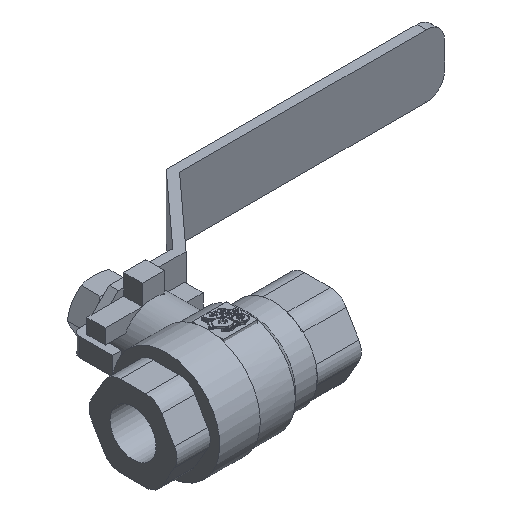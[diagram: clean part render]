
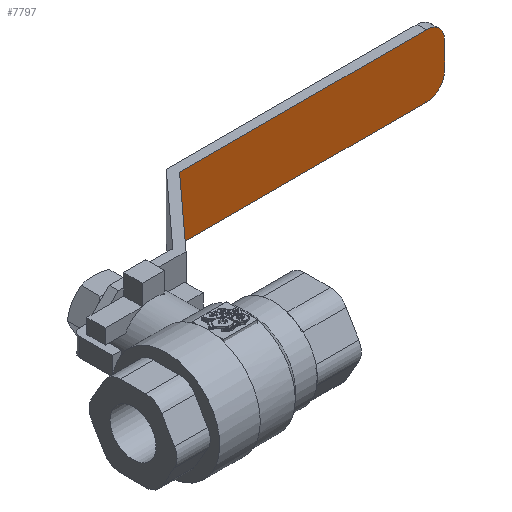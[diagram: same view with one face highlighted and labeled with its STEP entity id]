
A CAD part, isometric view. The second image highlights one B-rep face of the part: STEP entity #7797.
In plain terms, the highlighted planar face has unit normal (0, -1, 0).
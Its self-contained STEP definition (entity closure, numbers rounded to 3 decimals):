
#7797=ADVANCED_FACE('',(#14396),#14398,.T.);
#14396=FACE_BOUND('',#14397,.T.);
#14397=EDGE_LOOP('',(#19887,#19888,#19889,#19890,#19891,#19892));
#14398=PLANE('',#14399);
#14399=AXIS2_PLACEMENT_3D('',#14400,#14401,#14402);
#14400=CARTESIAN_POINT('',(3238.354,1729.318,-8.497));
#14401=DIRECTION('',(0.,-1.,0.));
#14402=DIRECTION('',(1.,0.,0.));
#19887=ORIENTED_EDGE('',*,*,#22725,.F.);
#19888=ORIENTED_EDGE('',*,*,#22729,.T.);
#19889=ORIENTED_EDGE('',*,*,#22734,.F.);
#19890=ORIENTED_EDGE('',*,*,#22744,.F.);
#19891=ORIENTED_EDGE('',*,*,#22745,.F.);
#19892=ORIENTED_EDGE('',*,*,#22746,.T.);
#22725=EDGE_CURVE('',#27057,#27059,#27060,.T.);
#22729=EDGE_CURVE('',#27057,#27064,#27066,.T.);
#22734=EDGE_CURVE('',#27074,#27064,#27075,.T.);
#22744=EDGE_CURVE('',#27085,#27074,#27087,.T.);
#22745=EDGE_CURVE('',#27088,#27085,#27089,.T.);
#22746=EDGE_CURVE('',#27088,#27059,#27090,.T.);
#27057=VERTEX_POINT('',#36487);
#27059=VERTEX_POINT('',#36491);
#27060=CIRCLE('',#36492,5.);
#27064=VERTEX_POINT('',#36503);
#27066=LINE('',#36507,#36508);
#27074=VERTEX_POINT('',#36526);
#27075=CIRCLE('',#36527,5.);
#27085=VERTEX_POINT('',#36556);
#27087=LINE('',#36560,#36561);
#27088=VERTEX_POINT('',#36563);
#27089=LINE('',#36564,#36565);
#27090=LINE('',#36567,#36568);
#36487=CARTESIAN_POINT('',(3310.247,1729.318,-3.497));
#36491=CARTESIAN_POINT('',(3305.247,1729.318,-8.497));
#36492=AXIS2_PLACEMENT_3D('',#36493,#36494,#36495);
#36493=CARTESIAN_POINT('',(3305.247,1729.318,-3.497));
#36494=DIRECTION('',(0.,1.,0.));
#36495=DIRECTION('',(1.,0.,0.));
#36503=CARTESIAN_POINT('',(3310.247,1729.318,3.503));
#36507=CARTESIAN_POINT('',(3310.247,1729.318,-3.497));
#36508=VECTOR('',#36509,1.);
#36509=DIRECTION('',(0.,0.,1.));
#36526=CARTESIAN_POINT('',(3305.247,1729.318,8.503));
#36527=AXIS2_PLACEMENT_3D('',#36528,#36529,#36530);
#36528=CARTESIAN_POINT('',(3305.247,1729.318,3.503));
#36529=DIRECTION('',(0.,1.,0.));
#36530=DIRECTION('',(0.,0.,1.));
#36556=CARTESIAN_POINT('',(3238.354,1729.318,8.503));
#36560=CARTESIAN_POINT('',(3238.354,1729.318,8.503));
#36561=VECTOR('',#36562,1.);
#36562=DIRECTION('',(1.,0.,0.));
#36563=CARTESIAN_POINT('',(3238.354,1729.318,-8.497));
#36564=CARTESIAN_POINT('',(3238.354,1729.318,-8.497));
#36565=VECTOR('',#36566,1.);
#36566=DIRECTION('',(0.,0.,1.));
#36567=CARTESIAN_POINT('',(3238.354,1729.318,-8.497));
#36568=VECTOR('',#36569,1.);
#36569=DIRECTION('',(1.,0.,0.));
